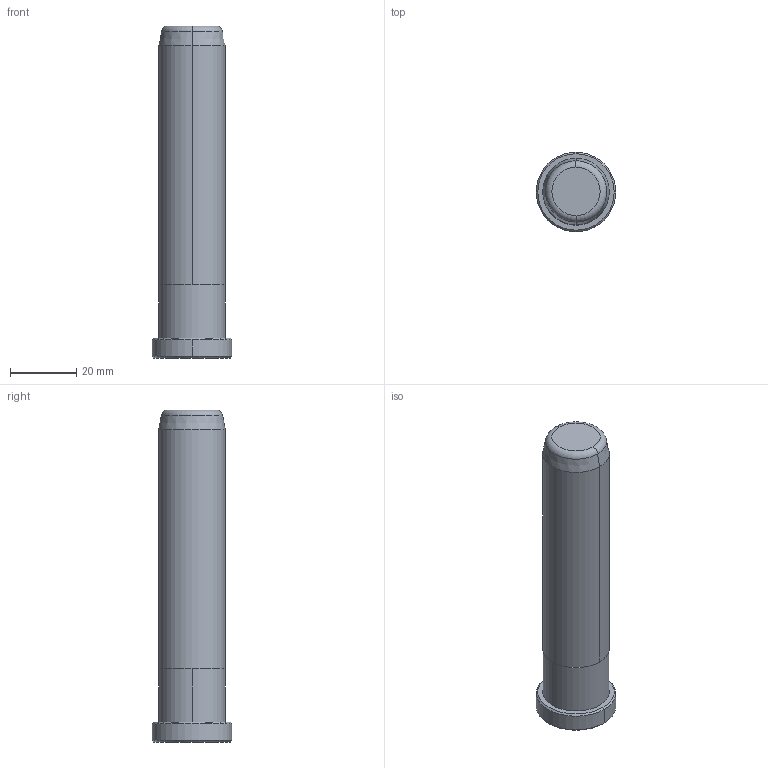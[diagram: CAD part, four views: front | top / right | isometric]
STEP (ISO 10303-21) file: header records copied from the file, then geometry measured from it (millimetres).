
FILE_DESCRIPTION((''),'2;1');
FILE_NAME('B80820100','2018-01-06T',('MANU'),(''),'PRO/ENGINEER BY PARAMETRIC TECHNOLOGY CORPORATION, 2012130','PRO/ENGINEER BY PARAMETRIC TECHNOLOGY CORPORATION, 2012130','');
FILE_SCHEMA(('CONFIG_CONTROL_DESIGN'));
Length unit declared in the file: millimetre
Products named in the file (1): B80820100
Bounding box: 24 x 24 x 100 mm (x, y, z)
Volume: 32013.8 mm3; surface area: 7109.1 mm2
Topology: 1 solids, 1 shells, 18 faces, 34 edges, 20 vertices
Faces by surface type: cone 6, cylinder 6, plane 4, torus 2
Entity records: 494 total; most frequent: DIRECTION 92, CARTESIAN_POINT 72, ORIENTED_EDGE 68, AXIS2_PLACEMENT_3D 40, EDGE_CURVE 34, CIRCLE 22, VERTEX_POINT 20, EDGE_LOOP 20
